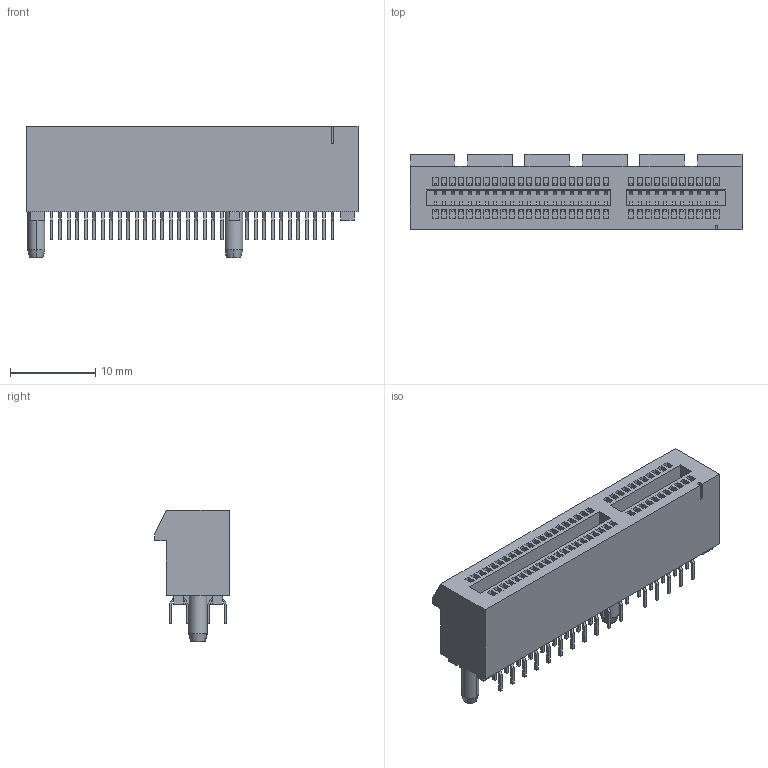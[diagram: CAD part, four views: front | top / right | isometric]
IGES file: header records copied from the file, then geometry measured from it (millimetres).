
Start section:  PTC IGES file: c-9-1734774-3-f-3d.igs
Global section: file name: c-9-1734774-3-f-3d.igs; native system: Creo Parametric by PTC Inc.; preprocessor: 2015200; author: workeradm; organization: Unknown; units: millimetre
Bounding box: 39 x 8.8 x 15.4 mm (x, y, z)
Surface area: 2898.5 mm2 (no closed solid volume)
Topology: 0 solids, 0 shells, 1430 faces, 7344 edges, 7344 vertices
Faces by surface type: bspline 1295, revolution 135
